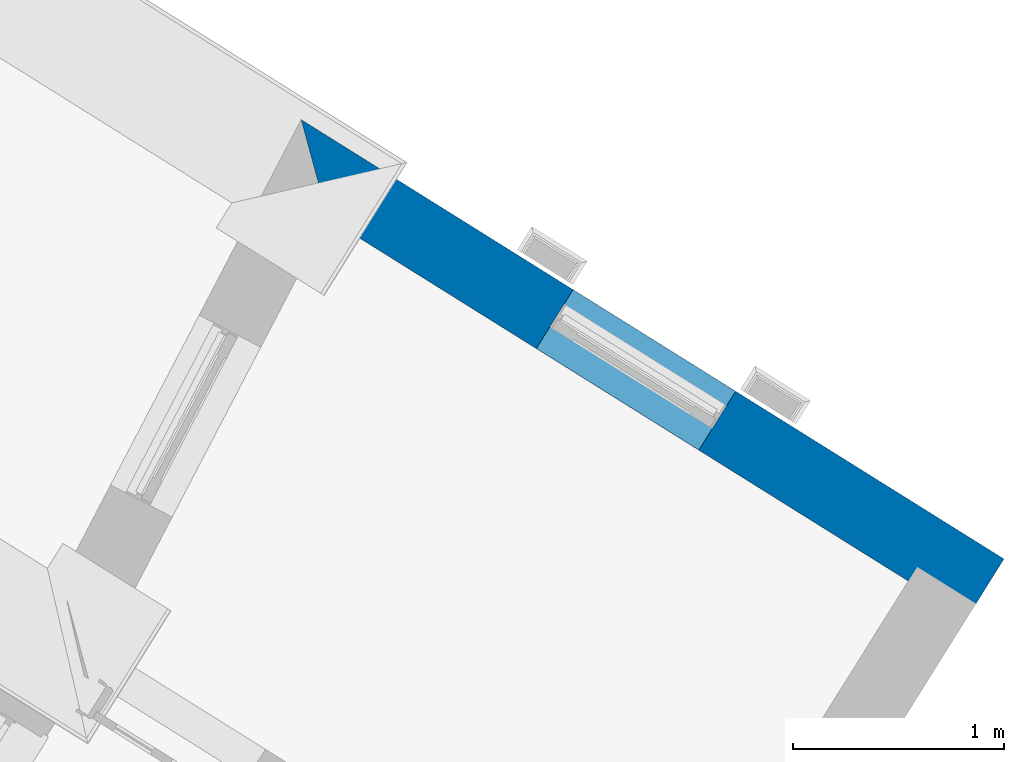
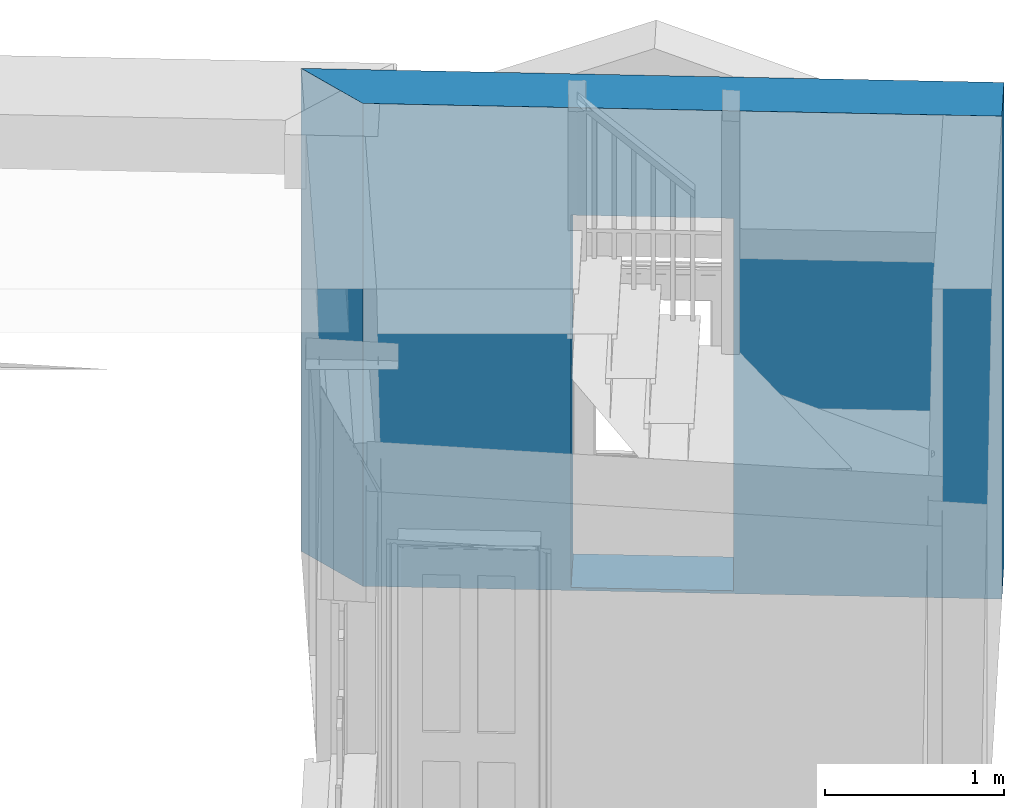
# One storey, part 3 of 5: 1 wall, 1 opening.
"""IFC4 building model written with IfcOpenShell, lengths in metres."""

from ifc_helpers import new_model, si_unit, frame, origin_with_axes, place, context, subcontext, project, spatial, polyline, outline, extrude, material, layer, layer_set, layer_usage, type_object, element, save


model = new_model("IFC4")

# Units and contexts
model_context = context("Model", 3, world=origin_with_axes())
body_context = subcontext(model_context, "Body", "Model", "MODEL_VIEW")
ifc_project = project(units=[si_unit("PLANEANGLEUNIT", "RADIAN"), si_unit("MASSUNIT", "GRAM", prefix="KILO"), si_unit("FORCEUNIT", "NEWTON", prefix="KILO"), si_unit("LENGTHUNIT", "METRE"), si_unit("AREAUNIT", "SQUARE_METRE"), si_unit("VOLUMEUNIT", "CUBIC_METRE")], contexts=[model_context, model_context])

# Sites, building, storey
site_1_placement = place(None, origin_with_axes())
site_1 = spatial("IfcSite", under=ifc_project, at=site_1_placement, Name="Tamar")
site_2_placement = place(site_1_placement, origin_with_axes())
site_2 = spatial("IfcSite", under=site_1, at=site_2_placement, Name="Site plot-3", CompositionType="ELEMENT")
building_placement = place(None, origin_with_axes())
building = spatial("IfcBuilding", under=site_2, at=building_placement, Name="Building plot-3", CompositionType="ELEMENT")
storey_placement = place(None, frame((0.0, 0.0, 24.5), z_axis=(0.0, 0.0, 1.0), x_axis=(1.0, 0.0, 0.0)))
storey = spatial("IfcBuildingStorey", under=building, at=storey_placement, Name="plot-3 0", CompositionType="ELEMENT", Elevation=24.5)

# Wall, opening
ifc_material = material(Name="Masonry")
ifc_layer = layer(ifc_material, 0.33, ventilated=False)
ifc_layer_set = layer_set([ifc_layer], Name="exterior_0.08_0.25")
ifc_layer_usage = layer_usage(ifc_layer_set, "AXIS2", "POSITIVE", -0.25)
wall_type = type_object("IfcWallType", Name="exterior_0.08_0.25", PredefinedType="SOLIDWALL", material=ifc_layer_set)
wall_placement = place(storey_placement, frame((220.336316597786, 286.433012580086, 0.0), z_axis=(0.0, 0.0, 1.0), x_axis=(-0.847981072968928, 0.53002650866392, 0.0)))
wall = element("IfcWall", 1, at=wall_placement, inside=storey, type_object=wall_type, material=ifc_layer_usage, Name="exterior", context=body_context, shape_type="SweptSolid", body=[
    extrude(outline(polyline([(-0.249999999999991, 0.0800000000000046), (-0.249999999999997, -0.249999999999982), (3.68727382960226, -0.249999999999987), (3.33054898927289, 0.080000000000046), (-0.249999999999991, 0.0800000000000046)])), origin_with_axes(), (0.0, 0.0, 1.0), 3.3),
])
opening_placement = place(wall_placement, frame((1.25351386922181, 0.0, 0.0199999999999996)))
element("IfcOpeningElement", 2, at=opening_placement, cuts=wall, Name="My Opening", ObjectType="Opening", context=body_context, shape_type="SweptSolid", body=[
    extrude(outline(polyline([(0.0, -0.269999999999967), (0.909999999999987, -0.269999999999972), (0.910000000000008, 1.1), (1.99840144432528e-14, 1.1), (0.0, -0.269999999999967)])), origin_with_axes(), (0.0, 0.0, 1.0), 2.545),
])

save(model, "model.ifc")
